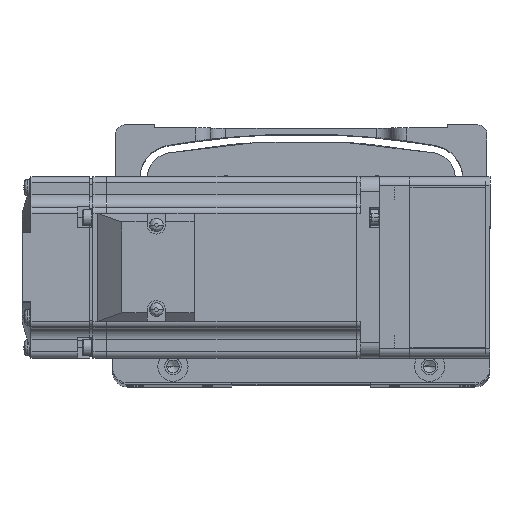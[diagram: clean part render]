
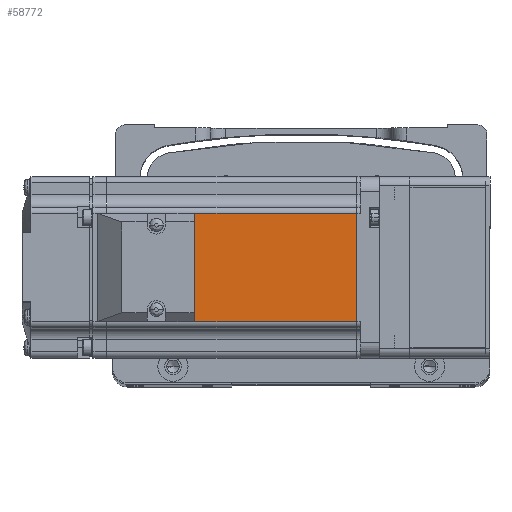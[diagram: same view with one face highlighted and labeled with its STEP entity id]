
A CAD part, top view. The second image highlights one B-rep face of the part: STEP entity #58772.
In plain terms, the highlighted planar face has unit normal (0, 0, 1) as drawn and (0, 1, 0) by its records, which use the part's own axes.
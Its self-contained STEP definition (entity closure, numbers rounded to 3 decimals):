
#5073 = VECTOR ( 'NONE', #24979, 1000. ) ;
#5227 = LINE ( 'NONE', #8425, #70214 ) ;
#6295 = CARTESIAN_POINT ( 'NONE',  ( -90.45, 30., -18. ) ) ;
#6708 = VECTOR ( 'NONE', #39178, 1000. ) ;
#8425 = CARTESIAN_POINT ( 'NONE',  ( -7.75, 30., 0. ) ) ;
#8701 = DIRECTION ( 'NONE',  ( 0., 0., 1. ) ) ;
#15382 = DIRECTION ( 'NONE',  ( 0., 1., 0. ) ) ;
#17328 = EDGE_CURVE ( 'NONE', #32288, #81654, #40184, .T. ) ;
#20443 = EDGE_CURVE ( 'NONE', #21667, #61897, #21924, .T. ) ;
#21667 = VERTEX_POINT ( 'NONE', #43401 ) ;
#21806 = LINE ( 'NONE', #31301, #5073 ) ;
#21924 = LINE ( 'NONE', #48562, #36698 ) ;
#23841 = DIRECTION ( 'NONE',  ( 1., 0., 0. ) ) ;
#24979 = DIRECTION ( 'NONE',  ( 0., 0., 1. ) ) ;
#31301 = CARTESIAN_POINT ( 'NONE',  ( -90.45, 30., 0. ) ) ;
#32288 = VERTEX_POINT ( 'NONE', #72040 ) ;
#32878 = CARTESIAN_POINT ( 'NONE',  ( -6.5, 30., -18. ) ) ;
#36698 = VECTOR ( 'NONE', #23841, 1000. ) ;
#39178 = DIRECTION ( 'NONE',  ( -1., 0., 0. ) ) ;
#40184 = LINE ( 'NONE', #32878, #6708 ) ;
#43401 = CARTESIAN_POINT ( 'NONE',  ( -90.45, 30., 18. ) ) ;
#48562 = CARTESIAN_POINT ( 'NONE',  ( -6.5, 30., 18. ) ) ;
#48950 = ORIENTED_EDGE ( 'NONE', *, *, #17328, .T. ) ;
#49032 = ORIENTED_EDGE ( 'NONE', *, *, #80382, .F. ) ;
#53073 = CARTESIAN_POINT ( 'NONE',  ( -6.5, 30., 25. ) ) ;
#55351 = ORIENTED_EDGE ( 'NONE', *, *, #20443, .T. ) ;
#55597 = EDGE_LOOP ( 'NONE', ( #49032, #48950, #78475, #55351 ) ) ;
#57099 = EDGE_CURVE ( 'NONE', #81654, #21667, #21806, .T. ) ;
#58718 = CARTESIAN_POINT ( 'NONE',  ( -7.75, 30., 18. ) ) ;
#58772 = ADVANCED_FACE ( 'NONE', ( #75774 ), #77904, .T. ) ;
#59448 = DIRECTION ( 'NONE',  ( 0., 0., 1. ) ) ;
#61897 = VERTEX_POINT ( 'NONE', #58718 ) ;
#63115 = AXIS2_PLACEMENT_3D ( 'NONE', #53073, #15382, #59448 ) ;
#70214 = VECTOR ( 'NONE', #8701, 1000. ) ;
#72040 = CARTESIAN_POINT ( 'NONE',  ( -7.75, 30., -18. ) ) ;
#75774 = FACE_OUTER_BOUND ( 'NONE', #55597, .T. ) ;
#77904 = PLANE ( 'NONE',  #63115 ) ;
#78475 = ORIENTED_EDGE ( 'NONE', *, *, #57099, .T. ) ;
#80382 = EDGE_CURVE ( 'NONE', #32288, #61897, #5227, .T. ) ;
#81654 = VERTEX_POINT ( 'NONE', #6295 ) ;
